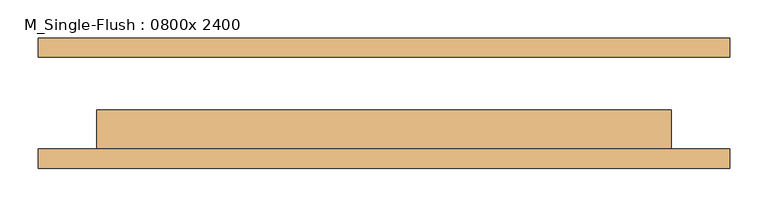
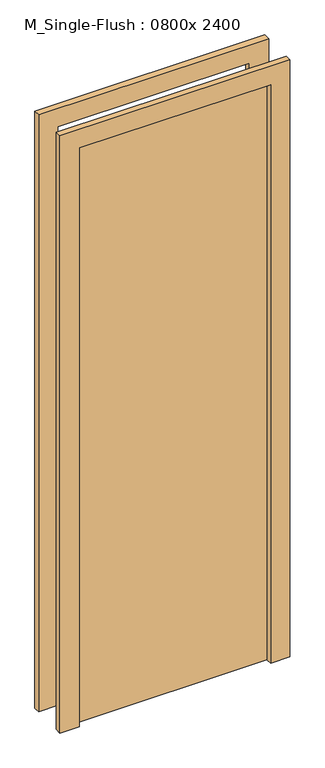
"""IFC4 building model written with IfcOpenShell, lengths in millimetres: door geometry, M_Single-Flush : 0800x 2400."""

from ifc_helpers import new_model, si_unit, frame, origin, origin_with_axes, place, context, project, spatial, polyline, outline, extrude, source, transform, mapped, element, save


def m_single_flush_0800x_2400_dba3e867(model_context):
    return source(origin(), model_context, "Body", "SweptSolid", [
        extrude(outline(polyline([(375.0, -9.0), (375.0, -60.0), (-375.0, -60.0), (-375.0, -9.0), (375.0, -9.0)])), origin_with_axes(), (0.0, 0.0, 1.0), 2400.0),
        extrude(outline(polyline([(2476.0, -451.0), (0.0, -451.0), (0.0, -375.0), (2400.0, -375.0), (2400.0, 375.0), (0.0, 375.0), (0.0, 451.0), (2476.0, 451.0), (2476.0, -451.0)])), frame((0.0, -85.0, 0.0), z_axis=(0.0, 1.0, 0.0), x_axis=(0.0, 0.0, 1.0)), (0.0, 0.0, 1.0), 25.0),
        extrude(outline(polyline([(2476.0, 451.0), (2476.0, -451.0), (0.0, -451.0), (0.0, -375.0), (2400.0, -375.0), (2400.0, 375.0), (0.0, 375.0), (0.0, 451.0), (2476.0, 451.0)])), frame((0.0, 60.0, 0.0), z_axis=(0.0, 1.0, 0.0), x_axis=(0.0, 0.0, 1.0)), (0.0, 0.0, 1.0), 25.0),
    ])


if __name__ == "__main__":
    model = new_model("IFC4")
    model_context = context("Model", 3, world=origin())
    ifc_project = project(units=[si_unit("LENGTHUNIT", "METRE", prefix="MILLI")], contexts=[model_context])
    site = spatial("IfcSite", under=ifc_project)
    building = spatial("IfcBuilding", under=site)
    placement = place(None, origin())
    m_single_flush_0800x_2400_shape = m_single_flush_0800x_2400_dba3e867(model_context)
    element("IfcDoor", 1, ObjectType="M_Single-Flush : 0800x 2400", at=placement, inside=building, context=model_context, shape_type="MappedRepresentation", body=[
        mapped(m_single_flush_0800x_2400_shape, transform((0.0, 0.0, 0.0), x_axis=(1.0, 0.0, 0.0), y_axis=(0.0, 1.0, 0.0), z_axis=(0.0, 0.0, 1.0))),
    ])
    save(model, "model.ifc")
